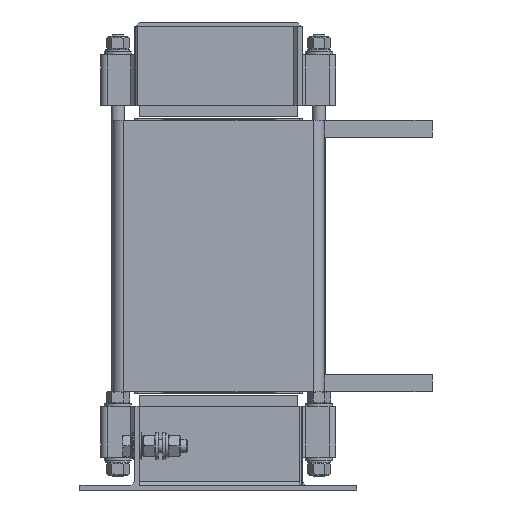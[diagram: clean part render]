
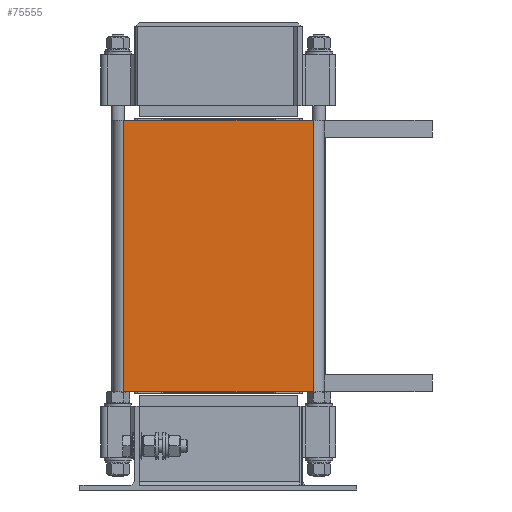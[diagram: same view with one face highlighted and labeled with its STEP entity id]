
A CAD part, left-side view. The second image highlights one B-rep face of the part: STEP entity #75555.
In plain terms, the highlighted planar face has unit normal (-1, 0, 0).
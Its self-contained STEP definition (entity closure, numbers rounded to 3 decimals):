
#75225=CARTESIAN_POINT('',(-249.,-84.,-120.));
#75226=VERTEX_POINT('',#75225);
#75242=CARTESIAN_POINT('',(-249.,-84.,120.));
#75243=VERTEX_POINT('',#75242);
#75251=CARTESIAN_POINT('',(-249.,-84.,120.));
#75252=DIRECTION('',(0.0,0.0,-1.0));
#75253=VECTOR('',#75252,240.);
#75254=LINE('',#75251,#75253);
#75255=EDGE_CURVE('',#75243,#75226,#75254,.T.);
#75305=CARTESIAN_POINT('',(-249.,84.,120.));
#75306=VERTEX_POINT('',#75305);
#75314=CARTESIAN_POINT('',(-249.,84.,120.));
#75315=DIRECTION('',(0.0,-1.0,0.0));
#75316=VECTOR('',#75315,168.);
#75317=LINE('',#75314,#75316);
#75318=EDGE_CURVE('',#75306,#75243,#75317,.T.);
#75504=CARTESIAN_POINT('',(-249.,84.,-120.));
#75505=VERTEX_POINT('',#75504);
#75513=CARTESIAN_POINT('',(-249.,84.,-120.));
#75514=DIRECTION('',(0.0,0.0,1.0));
#75515=VECTOR('',#75514,240.);
#75516=LINE('',#75513,#75515);
#75517=EDGE_CURVE('',#75505,#75306,#75516,.T.);
#75539=CARTESIAN_POINT('',(-249.,-94.,0.0));
#75540=DIRECTION('',(-1.0,0.0,0.0));
#75541=DIRECTION('',(0.0,1.0,0.0));
#75542=AXIS2_PLACEMENT_3D('',#75539,#75540,#75541);
#75543=PLANE('',#75542);
#75544=ORIENTED_EDGE('',*,*,#75255,.F.);
#75545=ORIENTED_EDGE('',*,*,#75318,.F.);
#75546=ORIENTED_EDGE('',*,*,#75517,.F.);
#75547=CARTESIAN_POINT('',(-249.,-84.0,-120.));
#75548=DIRECTION('',(0.0,1.0,0.0));
#75549=VECTOR('',#75548,168.);
#75550=LINE('',#75547,#75549);
#75551=EDGE_CURVE('',#75226,#75505,#75550,.T.);
#75552=ORIENTED_EDGE('',*,*,#75551,.F.);
#75553=EDGE_LOOP('',(#75544,#75545,#75546,#75552));
#75554=FACE_OUTER_BOUND('',#75553,.T.);
#75555=ADVANCED_FACE('',(#75554),#75543,.T.);
